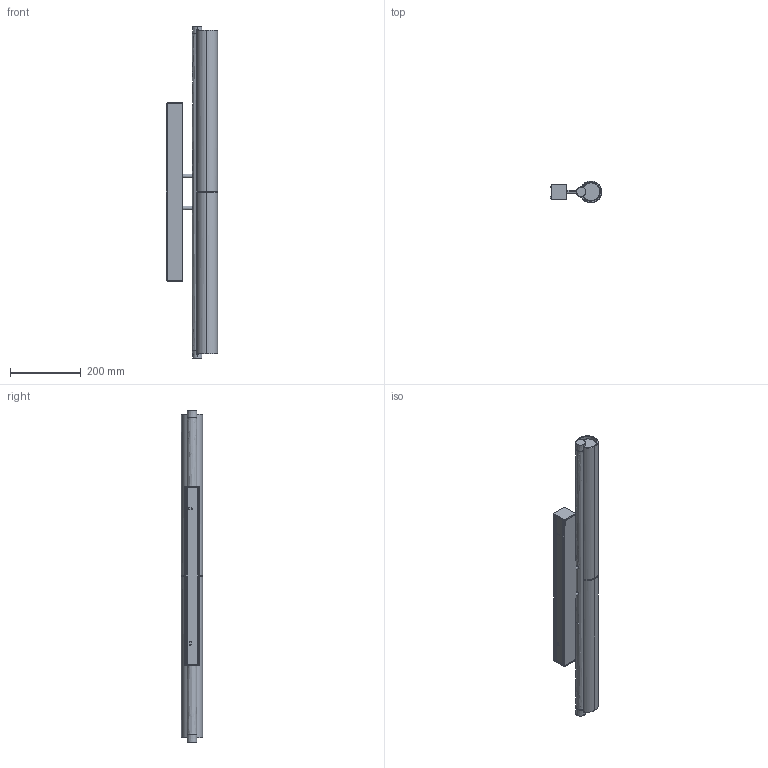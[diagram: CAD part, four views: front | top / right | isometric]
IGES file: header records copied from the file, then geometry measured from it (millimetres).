
Start section: SolidWorks IGES file using analytic representation for surfaces
Global section: file name: C:\Users\tungari.NEMOLIGHTING\Desktop\3D\WALL\3D_NORMA_9555\DEF\3D_NORMA_95.IGS; native system: SolidWorks 2016; preprocessor: SolidWorks 2016; author: tungari; date: 180314.145045; units: millimetre
Bounding box: 144.22 x 60.5 x 937 mm (x, y, z)
Surface area: 565648.6 mm2 (no closed solid volume)
Topology: 0 solids, 0 shells, 431 faces, 4497 edges, 4465 vertices
Faces by surface type: bspline 242, revolution 189
